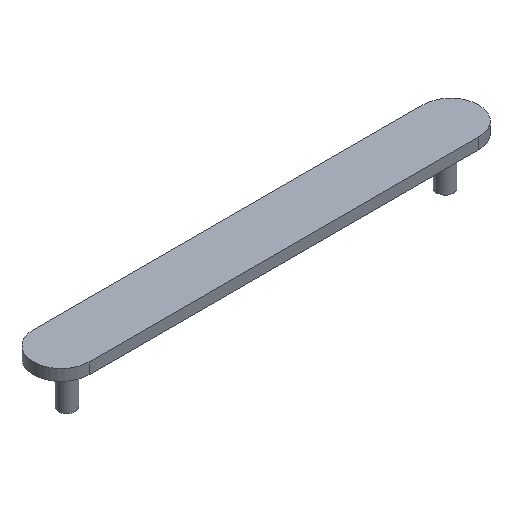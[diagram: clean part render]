
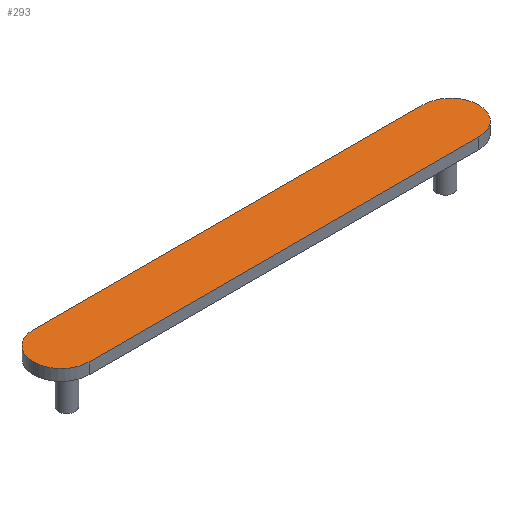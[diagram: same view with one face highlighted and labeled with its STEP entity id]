
A CAD part, isometric view. The second image highlights one B-rep face of the part: STEP entity #293.
In plain terms, the highlighted planar face has unit normal (0, 0, 1).
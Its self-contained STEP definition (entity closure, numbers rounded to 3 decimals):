
#3 = AXIS2_PLACEMENT_3D ( 'NONE', #36, #169, #297 ) ;
#12 = CIRCLE ( 'NONE', #278, 5. ) ;
#17 = DIRECTION ( 'NONE',  ( -1., 0., 0. ) ) ;
#18 = DIRECTION ( 'NONE',  ( 0., 0., 1. ) ) ;
#28 = ORIENTED_EDGE ( 'NONE', *, *, #337, .T. ) ;
#36 = CARTESIAN_POINT ( 'NONE',  ( -35., 0., 2. ) ) ;
#51 = CIRCLE ( 'NONE', #58, 5. ) ;
#58 = AXIS2_PLACEMENT_3D ( 'NONE', #268, #107, #218 ) ;
#60 = AXIS2_PLACEMENT_3D ( 'NONE', #290, #351, #103 ) ;
#65 = DIRECTION ( 'NONE',  ( -1., 0., 0. ) ) ;
#68 = CARTESIAN_POINT ( 'NONE',  ( 35., 5., 2. ) ) ;
#79 = DIRECTION ( 'NONE',  ( 1., 0., 0. ) ) ;
#97 = VERTEX_POINT ( 'NONE', #331 ) ;
#98 = CARTESIAN_POINT ( 'NONE',  ( 0., -5., 2. ) ) ;
#103 = DIRECTION ( 'NONE',  ( 1., 0., 0. ) ) ;
#106 = CARTESIAN_POINT ( 'NONE',  ( -35., 0., 2. ) ) ;
#107 = DIRECTION ( 'NONE',  ( 0., 0., 1. ) ) ;
#109 = VERTEX_POINT ( 'NONE', #213 ) ;
#115 = CIRCLE ( 'NONE', #385, 5. ) ;
#118 = EDGE_CURVE ( 'NONE', #162, #387, #115, .T. ) ;
#132 = VERTEX_POINT ( 'NONE', #406 ) ;
#160 = PLANE ( 'NONE',  #60 ) ;
#162 = VERTEX_POINT ( 'NONE', #298 ) ;
#169 = DIRECTION ( 'NONE',  ( 0., 0., 1. ) ) ;
#170 = EDGE_CURVE ( 'NONE', #171, #162, #310, .T. ) ;
#171 = VERTEX_POINT ( 'NONE', #68 ) ;
#175 = ORIENTED_EDGE ( 'NONE', *, *, #301, .F. ) ;
#197 = LINE ( 'NONE', #98, #322 ) ;
#207 = CARTESIAN_POINT ( 'NONE',  ( 35., 0., 2. ) ) ;
#213 = CARTESIAN_POINT ( 'NONE',  ( 40., 0., 2. ) ) ;
#218 = DIRECTION ( 'NONE',  ( 1., 0., 0. ) ) ;
#221 = EDGE_CURVE ( 'NONE', #132, #109, #12, .T. ) ;
#225 = ORIENTED_EDGE ( 'NONE', *, *, #170, .T. ) ;
#251 = DIRECTION ( 'NONE',  ( 1., 0., 0. ) ) ;
#268 = CARTESIAN_POINT ( 'NONE',  ( 35., 0., 2. ) ) ;
#272 = ORIENTED_EDGE ( 'NONE', *, *, #315, .T. ) ;
#278 = AXIS2_PLACEMENT_3D ( 'NONE', #207, #411, #251 ) ;
#290 = CARTESIAN_POINT ( 'NONE',  ( 0., 0., 2. ) ) ;
#291 = ORIENTED_EDGE ( 'NONE', *, *, #221, .T. ) ;
#293 = ADVANCED_FACE ( 'NONE', ( #319 ), #160, .T. ) ;
#297 = DIRECTION ( 'NONE',  ( 1., 0., 0. ) ) ;
#298 = CARTESIAN_POINT ( 'NONE',  ( -35., 5., 2. ) ) ;
#301 = EDGE_CURVE ( 'NONE', #132, #97, #197, .T. ) ;
#310 = LINE ( 'NONE', #363, #318 ) ;
#315 = EDGE_CURVE ( 'NONE', #387, #97, #342, .T. ) ;
#318 = VECTOR ( 'NONE', #17, 1000. ) ;
#319 = FACE_OUTER_BOUND ( 'NONE', #359, .T. ) ;
#322 = VECTOR ( 'NONE', #65, 1000. ) ;
#323 = ORIENTED_EDGE ( 'NONE', *, *, #118, .T. ) ;
#331 = CARTESIAN_POINT ( 'NONE',  ( -35., -5., 2. ) ) ;
#337 = EDGE_CURVE ( 'NONE', #109, #171, #51, .T. ) ;
#342 = CIRCLE ( 'NONE', #3, 5. ) ;
#351 = DIRECTION ( 'NONE',  ( 0., 0., 1. ) ) ;
#357 = CARTESIAN_POINT ( 'NONE',  ( -40., 0., 2. ) ) ;
#359 = EDGE_LOOP ( 'NONE', ( #225, #323, #272, #175, #291, #28 ) ) ;
#363 = CARTESIAN_POINT ( 'NONE',  ( 0., 5., 2. ) ) ;
#385 = AXIS2_PLACEMENT_3D ( 'NONE', #106, #18, #79 ) ;
#387 = VERTEX_POINT ( 'NONE', #357 ) ;
#406 = CARTESIAN_POINT ( 'NONE',  ( 35., -5., 2. ) ) ;
#411 = DIRECTION ( 'NONE',  ( 0., 0., 1. ) ) ;
